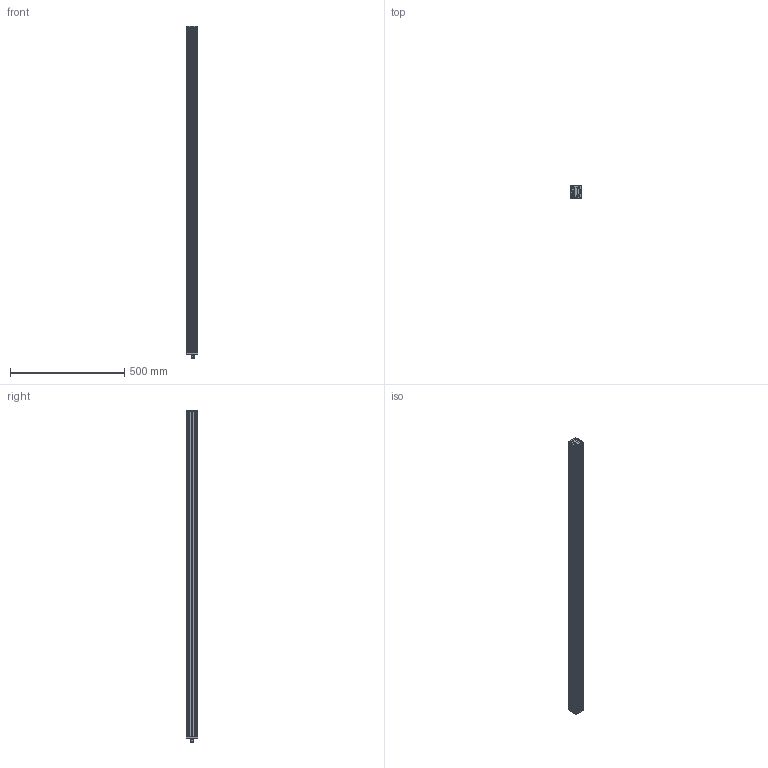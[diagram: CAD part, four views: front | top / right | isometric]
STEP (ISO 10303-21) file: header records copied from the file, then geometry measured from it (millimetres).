
FILE_DESCRIPTION (( 'STEP AP214' ), '1' );
FILE_NAME ('008808A.STEP', '2018-10-12T09:23:53', ( '' ), ( '' ), 'SwSTEP 2.0', 'SolidWorks 2018', '' );
FILE_SCHEMA (( 'AUTOMOTIVE_DESIGN' ));
Length unit declared in the file: millimetre
Products named in the file (1): 008808A
Bounding box: 49 x 51 x 1452.2 mm (x, y, z)
Surface area: 657689.4 mm2 (no closed solid volume)
Topology: 0 solids, 60 shells, 368 faces, 3187 edges, 2847 vertices
Faces by surface type: plane 197, cylinder 120, cone 30, bspline 21
Entity records: 40105 total; most frequent: CARTESIAN_POINT 14384, DIRECTION 3984, ORIENTED_EDGE 3677, EDGE_CURVE 3185, VERTEX_POINT 2847, LINE 1928, VECTOR 1928, AXIS2_PLACEMENT_3D 1028
